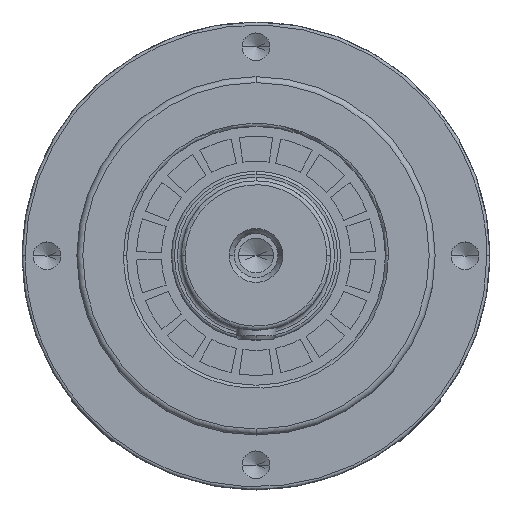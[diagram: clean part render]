
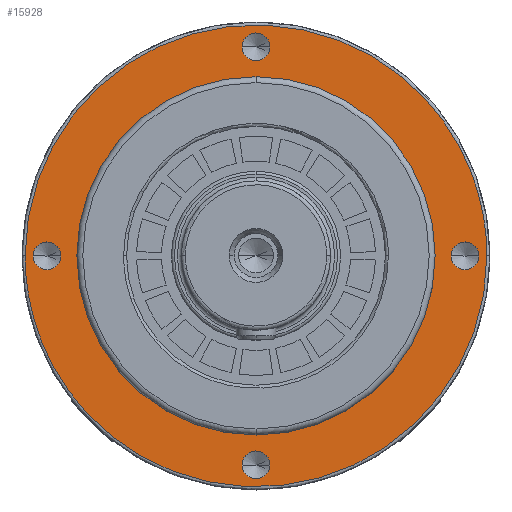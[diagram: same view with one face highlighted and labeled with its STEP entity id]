
A CAD part, top view. The second image highlights one B-rep face of the part: STEP entity #15928.
In plain terms, the highlighted planar face has unit normal (0, 0, 1).
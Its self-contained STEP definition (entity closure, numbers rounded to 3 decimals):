
#379 = EDGE_CURVE ( 'NONE', #48201, #45571, #38269, .T. ) ;
#429 = ORIENTED_EDGE ( 'NONE', *, *, #2177, .T. ) ;
#454 = EDGE_LOOP ( 'NONE', ( #39625, #35638 ) ) ;
#858 = ORIENTED_EDGE ( 'NONE', *, *, #379, .T. ) ;
#1196 = CARTESIAN_POINT ( 'NONE',  ( -98., 0., 12. ) ) ;
#2177 = EDGE_CURVE ( 'NONE', #22403, #14015, #22226, .T. ) ;
#3092 = EDGE_CURVE ( 'NONE', #45571, #48201, #14452, .T. ) ;
#3927 = CARTESIAN_POINT ( 'NONE',  ( -112., 0., 12. ) ) ;
#4181 = CIRCLE ( 'NONE', #23859, 7. ) ;
#4187 = CARTESIAN_POINT ( 'NONE',  ( 0., 105., 12. ) ) ;
#4244 = ORIENTED_EDGE ( 'NONE', *, *, #34258, .T. ) ;
#5383 = CARTESIAN_POINT ( 'NONE',  ( 90., 0., 12. ) ) ;
#5493 = AXIS2_PLACEMENT_3D ( 'NONE', #42644, #19834, #46423 ) ;
#6105 = ORIENTED_EDGE ( 'NONE', *, *, #29910, .F. ) ;
#6560 = EDGE_CURVE ( 'NONE', #48525, #45241, #41565, .T. ) ;
#6995 = FACE_BOUND ( 'NONE', #454, .T. ) ;
#7502 = DIRECTION ( 'NONE',  ( 0., 0., -1. ) ) ;
#7896 =( BOUNDED_CURVE ( )  B_SPLINE_CURVE ( 3, ( #22204, #45148, #18525, #48913 ),
 .UNSPECIFIED., .F., .F. ) 
 B_SPLINE_CURVE_WITH_KNOTS ( ( 4, 4 ),
 ( 0., 1. ),
 .UNSPECIFIED. ) 
 CURVE ( )  GEOMETRIC_REPRESENTATION_ITEM ( )  RATIONAL_B_SPLINE_CURVE ( ( 1., 0.333, 0.333, 1. ) ) 
 REPRESENTATION_ITEM ( '' )  );
#7963 = DIRECTION ( 'NONE',  ( 1., 0., 0. ) ) ;
#8407 = AXIS2_PLACEMENT_3D ( 'NONE', #17214, #43828, #20984 ) ;
#10243 = CARTESIAN_POINT ( 'NONE',  ( 0., 0., 12. ) ) ;
#11437 = ORIENTED_EDGE ( 'NONE', *, *, #3092, .T. ) ;
#12312 = DIRECTION ( 'NONE',  ( 0., 0., -1. ) ) ;
#12382 =( BOUNDED_CURVE ( )  B_SPLINE_CURVE ( 3, ( #41076, #44924, #22118, #48685 ),
 .UNSPECIFIED., .F., .F. ) 
 B_SPLINE_CURVE_WITH_KNOTS ( ( 4, 4 ),
 ( 0., 1. ),
 .UNSPECIFIED. ) 
 CURVE ( )  GEOMETRIC_REPRESENTATION_ITEM ( )  RATIONAL_B_SPLINE_CURVE ( ( 1., 0.333, 0.333, 1. ) ) 
 REPRESENTATION_ITEM ( '' )  );
#13610 = AXIS2_PLACEMENT_3D ( 'NONE', #35038, #12312, #38841 ) ;
#14015 = VERTEX_POINT ( 'NONE', #34631 ) ;
#14087 = DIRECTION ( 'NONE',  ( 1., 0., 0. ) ) ;
#14452 = CIRCLE ( 'NONE', #29926, 7. ) ;
#14670 = DIRECTION ( 'NONE',  ( 0., 0., -1. ) ) ;
#15175 = EDGE_LOOP ( 'NONE', ( #48830, #18715 ) ) ;
#15626 = EDGE_CURVE ( 'NONE', #26750, #15957, #47923, .T. ) ;
#15657 = AXIS2_PLACEMENT_3D ( 'NONE', #37384, #14670, #41214 ) ;
#15902 = DIRECTION ( 'NONE',  ( 0., 0., -1. ) ) ;
#15928 = ADVANCED_FACE ( 'NONE', ( #27129, #37225, #46135, #6995, #36041, #17039 ), #40468, .T. ) ;
#15957 = VERTEX_POINT ( 'NONE', #48388 ) ;
#16249 = DIRECTION ( 'NONE',  ( 0., 0., -1. ) ) ;
#17039 = FACE_BOUND ( 'NONE', #41914, .T. ) ;
#17064 = CARTESIAN_POINT ( 'NONE',  ( 98., 0., 12. ) ) ;
#17214 = CARTESIAN_POINT ( 'NONE',  ( -105., 0., 12. ) ) ;
#17536 = EDGE_CURVE ( 'NONE', #14015, #22403, #37560, .T. ) ;
#17930 = CARTESIAN_POINT ( 'NONE',  ( 0., 105., 12. ) ) ;
#18525 = CARTESIAN_POINT ( 'NONE',  ( 116., 232., 12. ) ) ;
#18706 = CIRCLE ( 'NONE', #8407, 7. ) ;
#18715 = ORIENTED_EDGE ( 'NONE', *, *, #28430, .T. ) ;
#19834 = DIRECTION ( 'NONE',  ( 0., 0., -1. ) ) ;
#19933 = EDGE_CURVE ( 'NONE', #21922, #27434, #7896, .T. ) ;
#20129 = CARTESIAN_POINT ( 'NONE',  ( 105., 0., 12. ) ) ;
#20984 = DIRECTION ( 'NONE',  ( 1., 0., 0. ) ) ;
#21352 = ORIENTED_EDGE ( 'NONE', *, *, #17536, .T. ) ;
#21754 = DIRECTION ( 'NONE',  ( 1., 0., 0. ) ) ;
#21922 = VERTEX_POINT ( 'NONE', #29154 ) ;
#22088 = AXIS2_PLACEMENT_3D ( 'NONE', #17930, #44550, #21754 ) ;
#22118 = CARTESIAN_POINT ( 'NONE',  ( -116., -232., 12. ) ) ;
#22204 = CARTESIAN_POINT ( 'NONE',  ( -116., 0., 12. ) ) ;
#22226 = CIRCLE ( 'NONE', #37200, 90. ) ;
#22403 = VERTEX_POINT ( 'NONE', #5383 ) ;
#22505 = AXIS2_PLACEMENT_3D ( 'NONE', #38649, #15902, #42487 ) ;
#22887 = EDGE_LOOP ( 'NONE', ( #46837, #6105 ) ) ;
#23042 = CIRCLE ( 'NONE', #15657, 7. ) ;
#23859 = AXIS2_PLACEMENT_3D ( 'NONE', #30198, #7502, #34031 ) ;
#23971 = DIRECTION ( 'NONE',  ( 1., 0., 0. ) ) ;
#26348 = CARTESIAN_POINT ( 'NONE',  ( 112., 0., 12. ) ) ;
#26750 = VERTEX_POINT ( 'NONE', #36389 ) ;
#27129 = FACE_BOUND ( 'NONE', #46234, .T. ) ;
#27434 = VERTEX_POINT ( 'NONE', #41440 ) ;
#28430 = EDGE_CURVE ( 'NONE', #45241, #48525, #39106, .T. ) ;
#29154 = CARTESIAN_POINT ( 'NONE',  ( -116., 0., 12. ) ) ;
#29466 = EDGE_LOOP ( 'NONE', ( #11437, #858 ) ) ;
#29910 = EDGE_CURVE ( 'NONE', #27434, #21922, #12382, .T. ) ;
#29926 = AXIS2_PLACEMENT_3D ( 'NONE', #20129, #46711, #23971 ) ;
#30198 = CARTESIAN_POINT ( 'NONE',  ( -105., 0., 12. ) ) ;
#30670 = DIRECTION ( 'NONE',  ( 0., 0., -1. ) ) ;
#30802 = AXIS2_PLACEMENT_3D ( 'NONE', #10243, #36785, #14087 ) ;
#32856 = ORIENTED_EDGE ( 'NONE', *, *, #45073, .T. ) ;
#33201 = EDGE_CURVE ( 'NONE', #15957, #26750, #23042, .T. ) ;
#34031 = DIRECTION ( 'NONE',  ( 1., 0., 0. ) ) ;
#34258 = EDGE_CURVE ( 'NONE', #42125, #36788, #18706, .T. ) ;
#34631 = CARTESIAN_POINT ( 'NONE',  ( -90., 0., 12. ) ) ;
#35038 = CARTESIAN_POINT ( 'NONE',  ( 105., 0., 12. ) ) ;
#35638 = ORIENTED_EDGE ( 'NONE', *, *, #15626, .T. ) ;
#36041 = FACE_BOUND ( 'NONE', #29466, .T. ) ;
#36389 = CARTESIAN_POINT ( 'NONE',  ( -7., -105., 12. ) ) ;
#36785 = DIRECTION ( 'NONE',  ( 0., 0., 1. ) ) ;
#36788 = VERTEX_POINT ( 'NONE', #3927 ) ;
#37200 = AXIS2_PLACEMENT_3D ( 'NONE', #38999, #16249, #42855 ) ;
#37225 = FACE_OUTER_BOUND ( 'NONE', #22887, .T. ) ;
#37384 = CARTESIAN_POINT ( 'NONE',  ( 0., -105., 12. ) ) ;
#37560 = CIRCLE ( 'NONE', #5493, 90. ) ;
#38269 = CIRCLE ( 'NONE', #13610, 7. ) ;
#38649 = CARTESIAN_POINT ( 'NONE',  ( 0., -105., 12. ) ) ;
#38841 = DIRECTION ( 'NONE',  ( 1., 0., 0. ) ) ;
#38999 = CARTESIAN_POINT ( 'NONE',  ( 0., 0., 12. ) ) ;
#39106 = CIRCLE ( 'NONE', #22088, 7. ) ;
#39625 = ORIENTED_EDGE ( 'NONE', *, *, #33201, .T. ) ;
#40468 = PLANE ( 'NONE',  #30802 ) ;
#41076 = CARTESIAN_POINT ( 'NONE',  ( 116., 0., 12. ) ) ;
#41214 = DIRECTION ( 'NONE',  ( 1., 0., 0. ) ) ;
#41440 = CARTESIAN_POINT ( 'NONE',  ( 116., 0., 12. ) ) ;
#41565 = CIRCLE ( 'NONE', #45991, 7. ) ;
#41914 = EDGE_LOOP ( 'NONE', ( #4244, #32856 ) ) ;
#42125 = VERTEX_POINT ( 'NONE', #1196 ) ;
#42487 = DIRECTION ( 'NONE',  ( 1., 0., 0. ) ) ;
#42644 = CARTESIAN_POINT ( 'NONE',  ( 0., 0., 12. ) ) ;
#42855 = DIRECTION ( 'NONE',  ( -1., 0., 0. ) ) ;
#43828 = DIRECTION ( 'NONE',  ( 0., 0., -1. ) ) ;
#44550 = DIRECTION ( 'NONE',  ( 0., 0., -1. ) ) ;
#44924 = CARTESIAN_POINT ( 'NONE',  ( 116., -232., 12. ) ) ;
#45073 = EDGE_CURVE ( 'NONE', #36788, #42125, #4181, .T. ) ;
#45148 = CARTESIAN_POINT ( 'NONE',  ( -116., 232., 12. ) ) ;
#45241 = VERTEX_POINT ( 'NONE', #46124 ) ;
#45571 = VERTEX_POINT ( 'NONE', #26348 ) ;
#45584 = CARTESIAN_POINT ( 'NONE',  ( 7., 105., 12. ) ) ;
#45991 = AXIS2_PLACEMENT_3D ( 'NONE', #4187, #30670, #7963 ) ;
#46124 = CARTESIAN_POINT ( 'NONE',  ( -7., 105., 12. ) ) ;
#46135 = FACE_BOUND ( 'NONE', #15175, .T. ) ;
#46234 = EDGE_LOOP ( 'NONE', ( #21352, #429 ) ) ;
#46423 = DIRECTION ( 'NONE',  ( -1., 0., 0. ) ) ;
#46711 = DIRECTION ( 'NONE',  ( 0., 0., -1. ) ) ;
#46837 = ORIENTED_EDGE ( 'NONE', *, *, #19933, .F. ) ;
#47923 = CIRCLE ( 'NONE', #22505, 7. ) ;
#48201 = VERTEX_POINT ( 'NONE', #17064 ) ;
#48388 = CARTESIAN_POINT ( 'NONE',  ( 7., -105., 12. ) ) ;
#48525 = VERTEX_POINT ( 'NONE', #45584 ) ;
#48685 = CARTESIAN_POINT ( 'NONE',  ( -116., 0., 12. ) ) ;
#48830 = ORIENTED_EDGE ( 'NONE', *, *, #6560, .T. ) ;
#48913 = CARTESIAN_POINT ( 'NONE',  ( 116., 0., 12. ) ) ;
